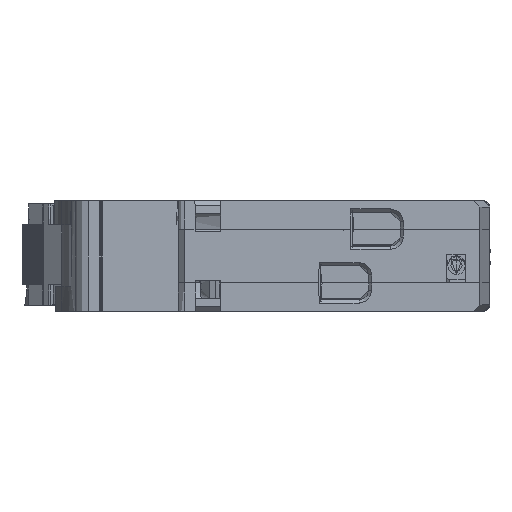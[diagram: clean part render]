
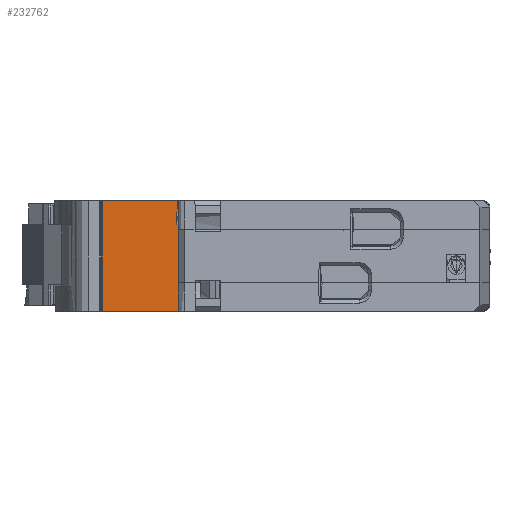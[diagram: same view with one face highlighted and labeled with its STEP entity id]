
A CAD part, left-side view. The second image highlights one B-rep face of the part: STEP entity #232762.
In plain terms, the highlighted planar face has unit normal (-1, 0, 0) as drawn and (1, 0, 0) by its records, which use the part's own axes.
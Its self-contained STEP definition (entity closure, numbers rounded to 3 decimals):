
#1542 = ORIENTED_EDGE ( 'NONE', *, *, #76115, .T. ) ;
#1949 = DIRECTION ( 'NONE',  ( 0., 0.017, -1. ) ) ;
#2179 = VERTEX_POINT ( 'NONE', #2911 ) ;
#2911 = CARTESIAN_POINT ( 'NONE',  ( -25.003, -24.565, -16.618 ) ) ;
#6774 = CARTESIAN_POINT ( 'NONE',  ( -25.003, -50.787, -3.618 ) ) ;
#7107 = LINE ( 'NONE', #89417, #98025 ) ;
#8504 = CARTESIAN_POINT ( 'NONE',  ( -25.003, -24.565, 0.882 ) ) ;
#14232 = VERTEX_POINT ( 'NONE', #222409 ) ;
#17739 = VECTOR ( 'NONE', #97011, 1000. ) ;
#27570 = CARTESIAN_POINT ( 'NONE',  ( -25.003, -36.442, -16.618 ) ) ;
#43068 = VERTEX_POINT ( 'NONE', #8504 ) ;
#48722 = LINE ( 'NONE', #59609, #224451 ) ;
#54472 = VERTEX_POINT ( 'NONE', #76121 ) ;
#56759 = LINE ( 'NONE', #119838, #153756 ) ;
#57202 = EDGE_CURVE ( 'NONE', #54472, #14232, #175749, .T. ) ;
#58046 = EDGE_CURVE ( 'NONE', #2179, #43068, #251079, .T. ) ;
#58241 = VECTOR ( 'NONE', #91829, 1000. ) ;
#59609 = CARTESIAN_POINT ( 'NONE',  ( -25.003, -36.465, -15.318 ) ) ;
#60436 = DIRECTION ( 'NONE',  ( 1., 0., 0. ) ) ;
#62711 = EDGE_CURVE ( 'NONE', #114167, #73457, #48722, .T. ) ;
#67306 = ORIENTED_EDGE ( 'NONE', *, *, #88450, .T. ) ;
#73296 = VERTEX_POINT ( 'NONE', #250438 ) ;
#73457 = VERTEX_POINT ( 'NONE', #27570 ) ;
#76115 = EDGE_CURVE ( 'NONE', #73296, #54472, #56759, .T. ) ;
#76121 = CARTESIAN_POINT ( 'NONE',  ( -25.003, -36.615, -3.618 ) ) ;
#81407 = LINE ( 'NONE', #96167, #17739 ) ;
#84986 = CARTESIAN_POINT ( 'NONE',  ( -25.003, -24.565, 0.882 ) ) ;
#85385 = LINE ( 'NONE', #168952, #58241 ) ;
#88450 = EDGE_CURVE ( 'NONE', #14232, #92248, #85385, .T. ) ;
#89417 = CARTESIAN_POINT ( 'NONE',  ( -25.003, -50.787, -15.318 ) ) ;
#90751 = AXIS2_PLACEMENT_3D ( 'NONE', #139983, #60436, #195971 ) ;
#91829 = DIRECTION ( 'NONE',  ( 0., 0.009, -1. ) ) ;
#92248 = VERTEX_POINT ( 'NONE', #215879 ) ;
#96167 = CARTESIAN_POINT ( 'NONE',  ( -25.003, -50.787, -16.618 ) ) ;
#97011 = DIRECTION ( 'NONE',  ( 0., 1., 0. ) ) ;
#98025 = VECTOR ( 'NONE', #202998, 1000. ) ;
#112183 = ORIENTED_EDGE ( 'NONE', *, *, #57202, .T. ) ;
#114167 = VERTEX_POINT ( 'NONE', #193364 ) ;
#119662 = PLANE ( 'NONE',  #90751 ) ;
#119838 = CARTESIAN_POINT ( 'NONE',  ( -25.003, -36.615, 0.882 ) ) ;
#122500 = ORIENTED_EDGE ( 'NONE', *, *, #208595, .T. ) ;
#136878 = LINE ( 'NONE', #250149, #142913 ) ;
#137087 = ORIENTED_EDGE ( 'NONE', *, *, #242489, .T. ) ;
#139983 = CARTESIAN_POINT ( 'NONE',  ( -25.003, -50.787, 0.882 ) ) ;
#140268 = VECTOR ( 'NONE', #140647, 1000. ) ;
#140647 = DIRECTION ( 'NONE',  ( 0., -1., 0. ) ) ;
#142913 = VECTOR ( 'NONE', #208649, 1000. ) ;
#153756 = VECTOR ( 'NONE', #158000, 1000. ) ;
#158000 = DIRECTION ( 'NONE',  ( 0., 0., -1. ) ) ;
#160369 = ORIENTED_EDGE ( 'NONE', *, *, #210429, .T. ) ;
#160499 = DIRECTION ( 'NONE',  ( 0., 0., 1. ) ) ;
#168952 = CARTESIAN_POINT ( 'NONE',  ( -25.003, -37.515, -3.618 ) ) ;
#175749 = LINE ( 'NONE', #6774, #140268 ) ;
#190733 = EDGE_LOOP ( 'NONE', ( #112183, #67306, #137087, #199214, #160369, #230985, #122500, #1542 ) ) ;
#193364 = CARTESIAN_POINT ( 'NONE',  ( -25.003, -36.465, -15.318 ) ) ;
#195743 = FACE_OUTER_BOUND ( 'NONE', #190733, .T. ) ;
#195971 = DIRECTION ( 'NONE',  ( 0., 1., 0. ) ) ;
#199214 = ORIENTED_EDGE ( 'NONE', *, *, #62711, .T. ) ;
#202998 = DIRECTION ( 'NONE',  ( 0., 1., 0. ) ) ;
#208595 = EDGE_CURVE ( 'NONE', #43068, #73296, #136878, .T. ) ;
#208649 = DIRECTION ( 'NONE',  ( 0., -1., 0. ) ) ;
#210429 = EDGE_CURVE ( 'NONE', #73457, #2179, #81407, .T. ) ;
#215879 = CARTESIAN_POINT ( 'NONE',  ( -25.003, -37.413, -15.318 ) ) ;
#222409 = CARTESIAN_POINT ( 'NONE',  ( -25.003, -37.515, -3.618 ) ) ;
#224451 = VECTOR ( 'NONE', #1949, 1000. ) ;
#230985 = ORIENTED_EDGE ( 'NONE', *, *, #58046, .T. ) ;
#232762 = ADVANCED_FACE ( 'NONE', ( #195743 ), #119662, .T. ) ;
#242489 = EDGE_CURVE ( 'NONE', #92248, #114167, #7107, .T. ) ;
#244961 = VECTOR ( 'NONE', #160499, 1000. ) ;
#250149 = CARTESIAN_POINT ( 'NONE',  ( -25.003, -37.615, 0.882 ) ) ;
#250438 = CARTESIAN_POINT ( 'NONE',  ( -25.003, -36.615, 0.882 ) ) ;
#251079 = LINE ( 'NONE', #84986, #244961 ) ;
